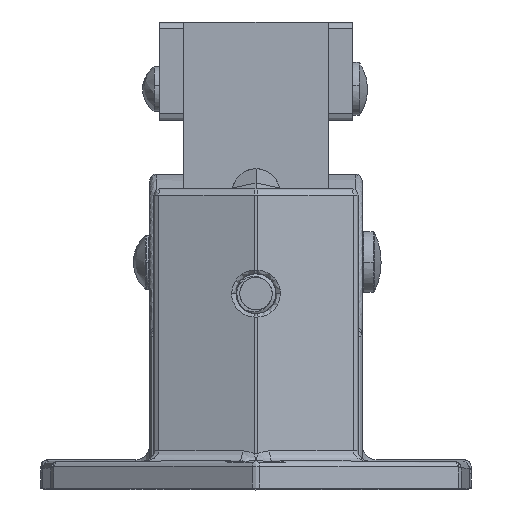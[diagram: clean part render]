
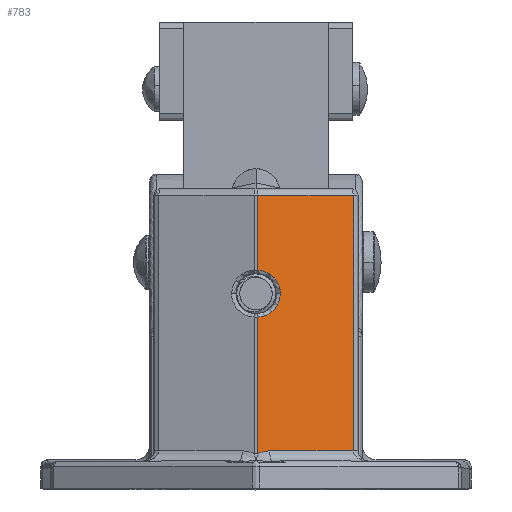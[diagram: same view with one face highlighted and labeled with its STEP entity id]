
A CAD part, top view. The second image highlights one B-rep face of the part: STEP entity #783.
In plain terms, the highlighted planar face has unit normal (0.258, 0, 0.966).
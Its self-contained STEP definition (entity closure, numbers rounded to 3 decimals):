
#783=ADVANCED_FACE('',(#1753),#15697,.T.);
#1753=FACE_OUTER_BOUND('',#2760,.T.);
#2760=EDGE_LOOP('',(#6577,#6578,#6579,#6580,#6581,#6582,#6583,#6584));
#6577=ORIENTED_EDGE('',*,*,#9992,.F.);
#6578=ORIENTED_EDGE('',*,*,#9993,.F.);
#6579=ORIENTED_EDGE('',*,*,#9832,.F.);
#6580=ORIENTED_EDGE('',*,*,#9994,.T.);
#6581=ORIENTED_EDGE('',*,*,#9919,.T.);
#6582=ORIENTED_EDGE('',*,*,#9823,.F.);
#6583=ORIENTED_EDGE('',*,*,#9908,.F.);
#6584=ORIENTED_EDGE('',*,*,#9827,.F.);
#9823=EDGE_CURVE('',#14330,#14315,#12732,.T.);
#9827=EDGE_CURVE('',#14270,#14333,#12734,.T.);
#9832=EDGE_CURVE('',#14336,#14278,#12738,.T.);
#9908=EDGE_CURVE('',#14333,#14330,#12786,.T.);
#9919=EDGE_CURVE('',#14400,#14315,#12796,.T.);
#9992=EDGE_CURVE('',#14275,#14270,#11283,.T.);
#9993=EDGE_CURVE('',#14278,#14275,#11284,.T.);
#9994=EDGE_CURVE('',#14336,#14400,#12853,.T.);
#11283=(
BOUNDED_CURVE()
B_SPLINE_CURVE(3,(#43036,#43037,#43038,#43039),.UNSPECIFIED.,.F.,.F.)
B_SPLINE_CURVE_WITH_KNOTS((4,4),(-5.987,0.),.UNSPECIFIED.)
CURVE()
GEOMETRIC_REPRESENTATION_ITEM()
RATIONAL_B_SPLINE_CURVE((1.,0.813,0.813,1.))
REPRESENTATION_ITEM('')
);
#11284=(
BOUNDED_CURVE()
B_SPLINE_CURVE(3,(#43040,#43041,#43042,#43043),.UNSPECIFIED.,.F.,.F.)
B_SPLINE_CURVE_WITH_KNOTS((4,4),(-5.987,0.),.UNSPECIFIED.)
CURVE()
GEOMETRIC_REPRESENTATION_ITEM()
RATIONAL_B_SPLINE_CURVE((1.,0.813,0.813,1.))
REPRESENTATION_ITEM('')
);
#12732=B_SPLINE_CURVE_WITH_KNOTS('',1,(#42164,#42165),.UNSPECIFIED.,.F.,
 .F.,(2,2),(0.,37.5),.UNSPECIFIED.);
#12734=B_SPLINE_CURVE_WITH_KNOTS('',1,(#42174,#42175),.UNSPECIFIED.,.F.,
 .F.,(2,2),(0.,11.002),.UNSPECIFIED.);
#12738=B_SPLINE_CURVE_WITH_KNOTS('',1,(#42212,#42213),.UNSPECIFIED.,.F.,
 .F.,(2,2),(0.,20.01),.UNSPECIFIED.);
#12786=B_SPLINE_CURVE_WITH_KNOTS('',1,(#42541,#42542),.UNSPECIFIED.,.F.,
 .F.,(2,2),(0.,14.489),.UNSPECIFIED.);
#12796=B_SPLINE_CURVE_WITH_KNOTS('',1,(#42586,#42587),.UNSPECIFIED.,.F.,
 .F.,(2,2),(-12.674,0.),.UNSPECIFIED.);
#12853=B_SPLINE_CURVE_WITH_KNOTS('',3,(#43044,#43045,#43046,#43047),
 .UNSPECIFIED.,.F.,.F.,(4,4),(0.,1.885),.UNSPECIFIED.);
#14270=VERTEX_POINT('',#40511);
#14275=VERTEX_POINT('',#40516);
#14278=VERTEX_POINT('',#40519);
#14315=VERTEX_POINT('',#40556);
#14330=VERTEX_POINT('',#40571);
#14333=VERTEX_POINT('',#40574);
#14336=VERTEX_POINT('',#40577);
#14400=VERTEX_POINT('',#40641);
#15697=PLANE('',#16267);
#16267=AXIS2_PLACEMENT_3D('',#38847,#16872,$);
#16872=DIRECTION('',(0.258,0.,0.966));
#38847=CARTESIAN_POINT('',(15.658,1.301,93.725));
#40511=CARTESIAN_POINT('',(0.258,31.998,97.831));
#40516=CARTESIAN_POINT('',(3.579,28.55,96.946));
#40519=CARTESIAN_POINT('',(0.258,25.102,97.831));
#40556=CARTESIAN_POINT('',(14.258,5.5,94.098));
#40571=CARTESIAN_POINT('',(14.258,43.,94.098));
#40574=CARTESIAN_POINT('',(0.258,43.,97.831));
#40577=CARTESIAN_POINT('',(0.258,5.092,97.831));
#40641=CARTESIAN_POINT('',(2.012,5.5,97.363));
#42164=CARTESIAN_POINT('',(14.258,43.,94.098));
#42165=CARTESIAN_POINT('',(14.258,5.5,94.098));
#42174=CARTESIAN_POINT('',(0.258,31.998,97.831));
#42175=CARTESIAN_POINT('',(0.258,43.,97.831));
#42212=CARTESIAN_POINT('',(0.258,5.092,97.831));
#42213=CARTESIAN_POINT('',(0.258,25.102,97.831));
#42541=CARTESIAN_POINT('',(0.258,43.,97.831));
#42542=CARTESIAN_POINT('',(14.258,43.,94.098));
#42586=CARTESIAN_POINT('',(2.012,5.5,97.363));
#42587=CARTESIAN_POINT('',(14.258,5.5,94.098));
#43036=CARTESIAN_POINT('',(3.579,28.55,96.946));
#43037=CARTESIAN_POINT('',(3.579,30.512,96.946));
#43038=CARTESIAN_POINT('',(2.218,31.924,97.309));
#43039=CARTESIAN_POINT('',(0.258,31.998,97.831));
#43040=CARTESIAN_POINT('',(0.258,25.102,97.831));
#43041=CARTESIAN_POINT('',(2.218,25.176,97.309));
#43042=CARTESIAN_POINT('',(3.579,26.588,96.946));
#43043=CARTESIAN_POINT('',(3.579,28.55,96.946));
#43044=CARTESIAN_POINT('',(0.258,5.092,97.831));
#43045=CARTESIAN_POINT('',(0.822,5.318,97.681));
#43046=CARTESIAN_POINT('',(1.401,5.5,97.526));
#43047=CARTESIAN_POINT('',(2.012,5.5,97.363));
